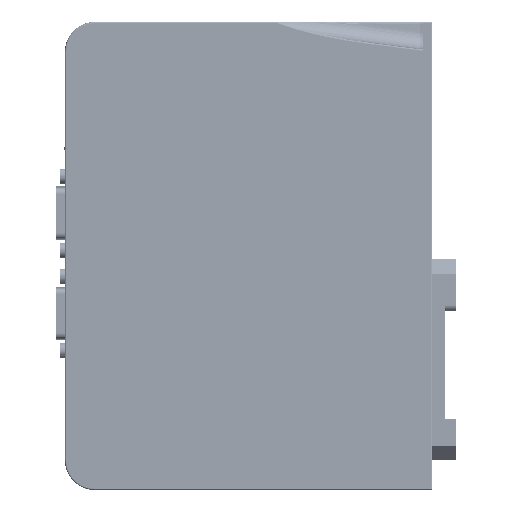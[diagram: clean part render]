
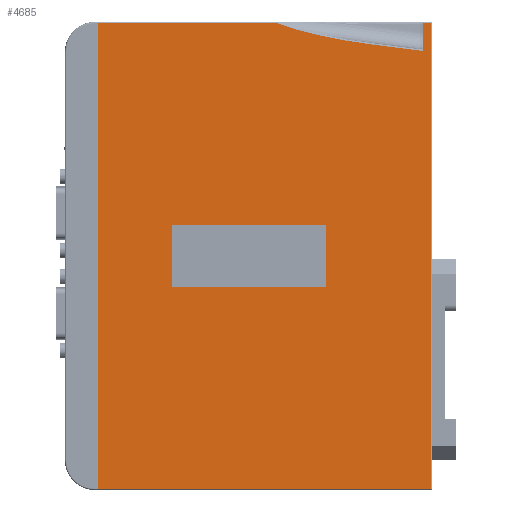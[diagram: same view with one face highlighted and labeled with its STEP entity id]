
A CAD part, front view. The second image highlights one B-rep face of the part: STEP entity #4685.
In plain terms, the highlighted planar face has unit normal (0, -1, 0).
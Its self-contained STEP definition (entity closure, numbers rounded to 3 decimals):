
#562=CARTESIAN_POINT('',(-3.,0.,148.306));
#563=VERTEX_POINT('',#562);
#572=CARTESIAN_POINT('',(-4.,0.,148.306));
#573=VERTEX_POINT('',#572);
#581=CARTESIAN_POINT('',(-3.,0.,148.306));
#582=DIRECTION('',(-1.0,0.0,0.0));
#583=VECTOR('',#582,1.0);
#584=LINE('',#581,#583);
#585=EDGE_CURVE('',#563,#573,#584,.T.);
#608=CARTESIAN_POINT('',(-3.,0.,157.496));
#609=VERTEX_POINT('',#608);
#610=CARTESIAN_POINT('',(-3.,0.,157.496));
#611=DIRECTION('',(0.0,0.0,-1.0));
#612=VECTOR('',#611,9.189);
#613=LINE('',#610,#612);
#614=EDGE_CURVE('',#609,#563,#613,.T.);
#776=CARTESIAN_POINT('',(-0.5,0.,157.496));
#777=VERTEX_POINT('',#776);
#778=CARTESIAN_POINT('',(-3.,0.,157.496));
#779=DIRECTION('',(1.0,0.0,0.0));
#780=VECTOR('',#779,2.5);
#781=LINE('',#778,#780);
#782=EDGE_CURVE('',#609,#777,#781,.T.);
#4503=CARTESIAN_POINT('',(-52.212,0.,157.496));
#4504=VERTEX_POINT('',#4503);
#4536=CARTESIAN_POINT('',(-113.0,0.,157.496));
#4537=VERTEX_POINT('',#4536);
#4545=CARTESIAN_POINT('',(-113.,0.,157.496));
#4546=DIRECTION('',(1.0,0.0,0.0));
#4547=VECTOR('',#4546,60.788);
#4548=LINE('',#4545,#4547);
#4549=EDGE_CURVE('',#4537,#4504,#4548,.T.);
#4583=CARTESIAN_POINT('',(-19.414,0.,150.271));
#4584=VERTEX_POINT('',#4583);
#4585=CARTESIAN_POINT('',(-18.997,0.,156.771));
#4586=DIRECTION('',(0.,-1.0,0.));
#4587=DIRECTION('',(-0.992,0.,0.128));
#4588=AXIS2_PLACEMENT_3D('',#4585,#4586,#4587);
#4589=ELLIPSE('',#4588,39.379,6.5);
#4590=EDGE_CURVE('',#4504,#4584,#4589,.T.);
#4611=CARTESIAN_POINT('',(-2.,0.,153.334));
#4612=DIRECTION('',(0.0,1.0,0.0));
#4613=DIRECTION('',(0.0,0.0,1.0));
#4614=AXIS2_PLACEMENT_3D('',#4611,#4612,#4613);
#4615=PLANE('',#4614);
#4616=ORIENTED_EDGE('',*,*,#585,.T.);
#4617=CARTESIAN_POINT('',(-19.414,0.,150.271));
#4618=DIRECTION('',(0.992,0.,-0.126));
#4619=VECTOR('',#4618,15.539);
#4620=LINE('',#4617,#4619);
#4621=EDGE_CURVE('',#4584,#573,#4620,.T.);
#4622=ORIENTED_EDGE('',*,*,#4621,.F.);
#4623=ORIENTED_EDGE('',*,*,#4590,.F.);
#4624=ORIENTED_EDGE('',*,*,#4549,.F.);
#4625=CARTESIAN_POINT('',(-113.0,0.,0.504));
#4626=VERTEX_POINT('',#4625);
#4627=CARTESIAN_POINT('',(-113.0,0.,157.496));
#4628=DIRECTION('',(0.0,0.0,-1.0));
#4629=VECTOR('',#4628,156.991);
#4630=LINE('',#4627,#4629);
#4631=EDGE_CURVE('',#4537,#4626,#4630,.T.);
#4632=ORIENTED_EDGE('',*,*,#4631,.T.);
#4633=CARTESIAN_POINT('',(-0.5,0.,0.504));
#4634=VERTEX_POINT('',#4633);
#4635=CARTESIAN_POINT('',(-0.5,0.,0.504));
#4636=DIRECTION('',(-1.0,0.0,0.0));
#4637=VECTOR('',#4636,112.5);
#4638=LINE('',#4635,#4637);
#4639=EDGE_CURVE('',#4634,#4626,#4638,.T.);
#4640=ORIENTED_EDGE('',*,*,#4639,.F.);
#4641=CARTESIAN_POINT('',(-0.5,0.,157.496));
#4642=DIRECTION('',(0.0,0.0,-1.0));
#4643=VECTOR('',#4642,156.991);
#4644=LINE('',#4641,#4643);
#4645=EDGE_CURVE('',#777,#4634,#4644,.T.);
#4646=ORIENTED_EDGE('',*,*,#4645,.F.);
#4647=ORIENTED_EDGE('',*,*,#782,.F.);
#4648=ORIENTED_EDGE('',*,*,#614,.T.);
#4649=EDGE_LOOP('',(#4616,#4622,#4623,#4624,#4632,#4640,#4646,#4647,#4648));
#4650=FACE_OUTER_BOUND('',#4649,.T.);
#4651=CARTESIAN_POINT('',(-88.,0.,89.5));
#4652=VERTEX_POINT('',#4651);
#4653=CARTESIAN_POINT('',(-36.,0.,89.5));
#4654=VERTEX_POINT('',#4653);
#4655=CARTESIAN_POINT('',(-88.0,0.,89.5));
#4656=DIRECTION('',(1.0,0.0,0.0));
#4657=VECTOR('',#4656,52.);
#4658=LINE('',#4655,#4657);
#4659=EDGE_CURVE('',#4652,#4654,#4658,.T.);
#4660=ORIENTED_EDGE('',*,*,#4659,.T.);
#4661=CARTESIAN_POINT('',(-36.,0.,68.5));
#4662=VERTEX_POINT('',#4661);
#4663=CARTESIAN_POINT('',(-36.,0.,89.5));
#4664=DIRECTION('',(0.0,0.0,-1.0));
#4665=VECTOR('',#4664,21.);
#4666=LINE('',#4663,#4665);
#4667=EDGE_CURVE('',#4654,#4662,#4666,.T.);
#4668=ORIENTED_EDGE('',*,*,#4667,.T.);
#4669=CARTESIAN_POINT('',(-88.0,0.,68.5));
#4670=VERTEX_POINT('',#4669);
#4671=CARTESIAN_POINT('',(-36.,0.,68.5));
#4672=DIRECTION('',(-1.0,0.0,0.0));
#4673=VECTOR('',#4672,52.);
#4674=LINE('',#4671,#4673);
#4675=EDGE_CURVE('',#4662,#4670,#4674,.T.);
#4676=ORIENTED_EDGE('',*,*,#4675,.T.);
#4677=CARTESIAN_POINT('',(-88.0,0.,68.5));
#4678=DIRECTION('',(0.0,0.0,1.0));
#4679=VECTOR('',#4678,21.0);
#4680=LINE('',#4677,#4679);
#4681=EDGE_CURVE('',#4670,#4652,#4680,.T.);
#4682=ORIENTED_EDGE('',*,*,#4681,.T.);
#4683=EDGE_LOOP('',(#4660,#4668,#4676,#4682));
#4684=FACE_BOUND('',#4683,.T.);
#4685=ADVANCED_FACE('',(#4650,#4684),#4615,.F.);
